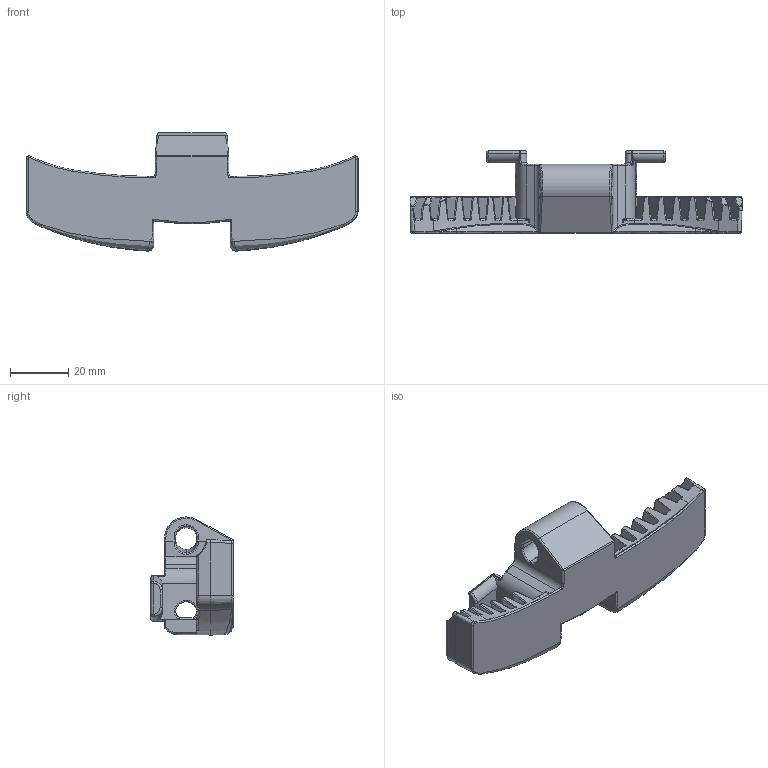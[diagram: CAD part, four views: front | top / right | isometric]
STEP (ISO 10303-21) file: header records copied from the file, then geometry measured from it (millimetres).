
FILE_DESCRIPTION((''),'2;1');
FILE_NAME('P1649','2024-05-23T09:00:45',('joakim.vodder'),(''),'CREO PARAMETRIC BY PTC INC, 2023134','CREO PARAMETRIC BY PTC INC, 2023134','');
FILE_SCHEMA(('AUTOMOTIVE_DESIGN { 1 0 10303 214 1 1 1 1 }'));
Products named in the file (1): P1649
Bounding box: 114.3 x 28.4 x 40.7 mm (x, y, z)
Volume: 32625.6 mm3; surface area: 17113.5 mm2
Topology: 1 solids, 1 shells, 1269 faces, 3173 edges, 1928 vertices
Faces by surface type: plane 560, cylinder 305, bspline 250, torus 69, sphere 64, cone 19, extrusion 2
Entity records: 65977 total; most frequent: CARTESIAN_POINT 28182, ORIENTED_EDGE 6342, DIRECTION 5206, PRESENTATION_STYLE_ASSIGNMENT 3172, STYLED_ITEM 3172, CURVE_STYLE 3171, EDGE_CURVE 3171, VERTEX_POINT 1928
